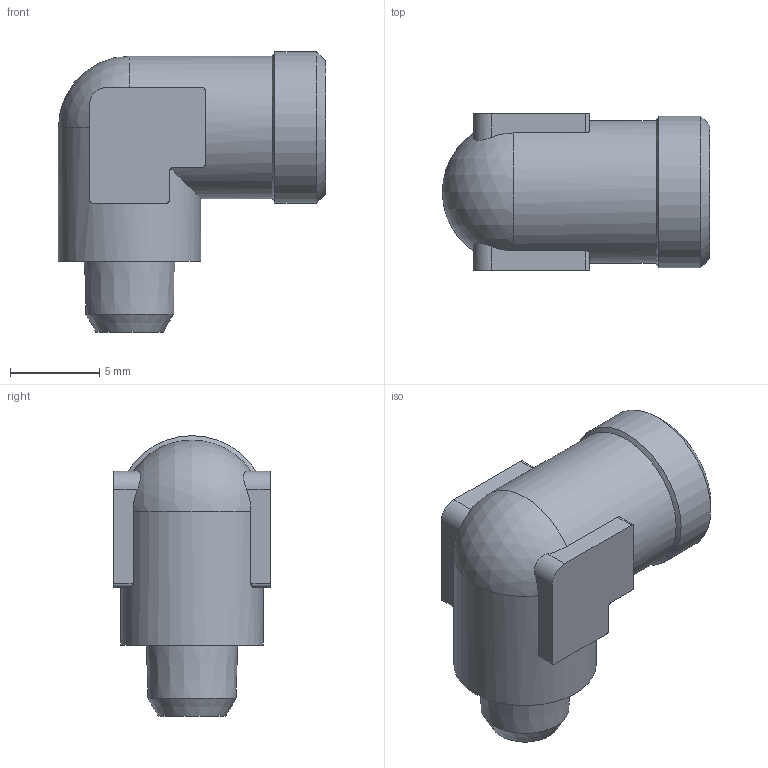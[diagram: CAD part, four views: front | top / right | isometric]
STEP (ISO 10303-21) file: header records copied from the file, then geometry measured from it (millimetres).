
FILE_DESCRIPTION(/* description */ (''),/* implementation_level */ '2;1');
FILE_NAME(/* name */ '50201_110_M5_29.06.17',/* time_stamp */ '2017-06-29T10:19:17+02:00',/* author */ (''),/* organization */ (''),/* preprocessor_version */ 'ST-DEVELOPER v16.5',/* originating_system */ 'HiCAD 2016 2102.2 Build 618',/* authorisation */ '');
FILE_SCHEMA (('AUTOMOTIVE_DESIGN { 1 0 10303 214 1 1 1 1 }'));
Length unit declared in the file: millimetre
Products named in the file (2): Root; 50201
Assembly tree (1 placements, depth 2):
  Root
    50201
Bounding box: 15 x 8.8 x 15.75 mm (x, y, z)
Volume: 857.5 mm3; surface area: 856.3 mm2
Topology: 1 solids, 1 shells, 42 faces, 122 edges, 80 vertices
Faces by surface type: plane 17, cylinder 17, cone 7, sphere 1
Full cylindrical faces by diameter (mm): 2 x1, 4.02 x1, 8 x2, 8.5 x1
Entity records: 4667 total; most frequent: CARTESIAN_POINT 2678, DIRECTION 204, PRESENTATION_STYLE_ASSIGNMENT 197, COLOUR_RGB 197, DRAUGHTING_PRE_DEFINED_CURVE_FONT 196, CURVE_STYLE 196, OVER_RIDING_STYLED_ITEM 196, ORIENTED_EDGE 196
